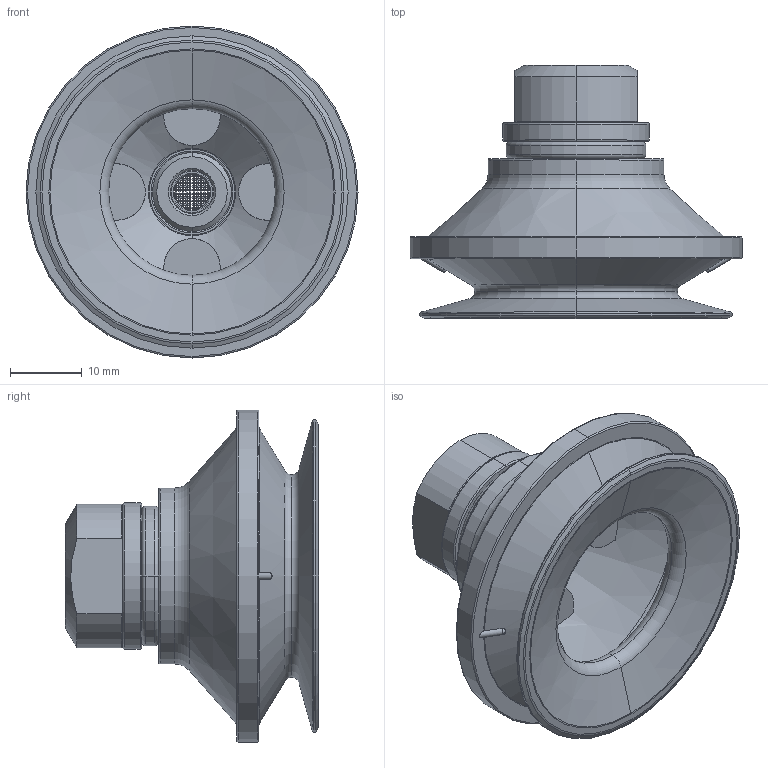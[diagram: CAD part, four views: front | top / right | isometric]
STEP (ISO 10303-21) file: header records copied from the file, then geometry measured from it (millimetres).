
FILE_DESCRIPTION (( 'STEP AP214' ), '1' );
FILE_NAME ('91 40-- 18D-2-F .step', '2024-12-12T16:12:45', ( '' ), ( '' ), 'SwSTEP 2.0', 'SolidWorks 2021', '' );
FILE_SCHEMA (( 'AUTOMOTIVE_DESIGN' ));
Length unit declared in the file: millimetre
Products named in the file (1): 91 40-- 18D-2-F  
Bounding box: 46.23 x 35.24 x 46.23 mm (x, y, z)
Volume: 11605.1 mm3; surface area: 11891.6 mm2
Topology: 5 solids, 5 shells, 744 faces, 1977 edges, 1060 vertices
Faces by surface type: cylinder 612, torus 59, plane 36, cone 31, sphere 4, bspline 2
Entity records: 28135 total; most frequent: CARTESIAN_POINT 12823, ORIENTED_EDGE 3938, DIRECTION 2599, EDGE_CURVE 1969, VERTEX_POINT 1056, AXIS2_PLACEMENT_3D 995, EDGE_LOOP 767, FACE_OUTER_BOUND 744
